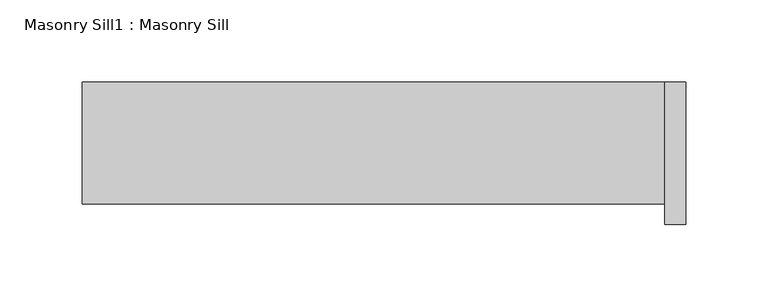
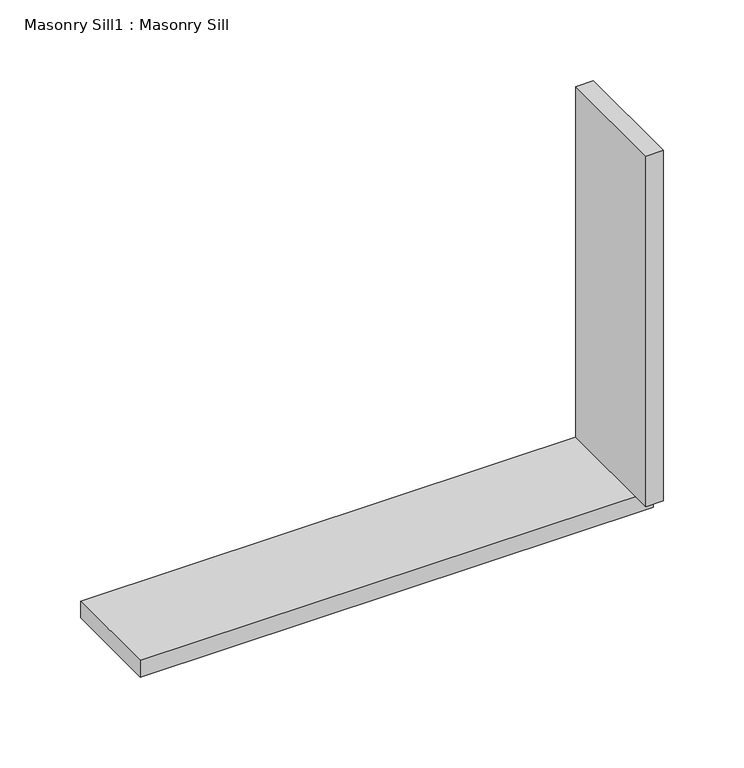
"""IFC4 building model written with IfcOpenShell, lengths in millimetres: proxy geometry, Masonry Sill1 : Masonry Sill."""

import ifcopenshell
import ifcopenshell.guid

model = None  # the IFC model being written
_history = None  # IfcOwnerHistory: only IFC2X3 demands one
_inside = {}  # id of a spatial element -> (the spatial element, [elements in it])
_under = {}  # id of a project, library or spatial element -> (it, [spatial elements below it])
_declared = {}  # id of a project -> (the project, [libraries it declares])
_typed = {}  # id of a type object -> (the type object, [elements of that type])
_made_of = {}  # id of a material, layer set ... -> (it, [elements and type objects made of it])


def new_model(schema):
    """Start an empty IFC model of exactly this schema.

    Asked for "IFC4X3", IfcOpenShell would pick the latest addendum, in which some entities
    have other attributes; the version numbers below select the first issue.
    IFC2X3 requires an IfcOwnerHistory on every rooted entity: one is made here for all.
    """
    global model, _history
    if schema == "IFC4X3":
        model = ifcopenshell.file(schema_version=(4, 3, 0, 0))
    else:
        model = ifcopenshell.file(schema=schema)
    _inside.clear()
    _under.clear()
    _declared.clear()
    _typed.clear()
    _made_of.clear()
    _history = None
    if model.schema == "IFC2X3":
        org = make("IfcOrganization", Name="unknown")
        user = make(
            "IfcPersonAndOrganization",
            ThePerson=make("IfcPerson", FamilyName="unknown"),
            TheOrganization=org,
        )
        app = make(
            "IfcApplication",
            ApplicationDeveloper=org,
            Version="unknown",
            ApplicationFullName="unknown",
            ApplicationIdentifier="unknown",
        )
        _history = make(
            "IfcOwnerHistory",
            OwningUser=user,
            OwningApplication=app,
            ChangeAction="ADDED",
            CreationDate=0,
        )
    return model


def make(cls, **values):
    """One entity of the class cls with the attributes given. An attribute that is None is left unset."""
    return model.create_entity(
        cls, **{name: value for name, value in values.items() if value is not None}
    )


def rooted(cls, **values):
    """An entity with a GlobalId (a new one), such as an element, a storey or a relation."""
    return make(cls, GlobalId=ifcopenshell.guid.new(), OwnerHistory=_history, **values)


def si_unit(unit_type, name, prefix=None):
    """IfcSIUnit, for example si_unit("LENGTHUNIT", "METRE", prefix="MILLI")."""
    return make("IfcSIUnit", UnitType=unit_type, Prefix=prefix, Name=name)


def assignment(units):
    """IfcUnitAssignment: the units of a project."""
    return None if units is None else make("IfcUnitAssignment", Units=units)


def point(xyz):
    """IfcCartesianPoint."""
    return None if xyz is None else make("IfcCartesianPoint", Coordinates=xyz)


def direction(xyz):
    """IfcDirection."""
    return None if xyz is None else make("IfcDirection", DirectionRatios=xyz)


def frame(location, z_axis=None, x_axis=None):
    """IfcAxis2Placement3D, a coordinate frame: its origin and axes. An axis left out is left unset."""
    return make(
        "IfcAxis2Placement3D",
        Location=point(location),
        Axis=direction(z_axis),
        RefDirection=direction(x_axis),
    )


def origin():
    """The frame at (0, 0, 0) with its axes left unset."""
    return frame((0.0, 0.0, 0.0))


def place(relative_to, where):
    """IfcLocalPlacement: puts the frame where relative to a parent placement (None: the world)."""
    return make(
        "IfcLocalPlacement", PlacementRelTo=relative_to, RelativePlacement=where
    )


def context(
    kind, dimensions, precision=None, world=None, true_north=None, identifier=None
):
    """IfcGeometricRepresentationContext, for example the 3D "Model" context."""
    return make(
        "IfcGeometricRepresentationContext",
        ContextIdentifier=identifier,
        ContextType=kind,
        CoordinateSpaceDimension=dimensions,
        Precision=precision,
        WorldCoordinateSystem=world,
        TrueNorth=true_north,
    )


def project(units=None, contexts=None):
    """IfcProject with its units and contexts."""
    return rooted(
        "IfcProject",
        Name="project",
        RepresentationContexts=contexts,
        UnitsInContext=assignment(units),
    )


def spatial(cls, under=None, at=None, **own):
    """A site, building, storey or space (cls), placed at a placement, below another one or the project."""
    s = rooted(cls, ObjectPlacement=at, **own)
    if under is not None:
        _under.setdefault(under.id(), (under, []))[1].append(s)
    return s


def polyline(points):
    """IfcPolyline through the points."""
    return make("IfcPolyline", Points=[point(p) for p in points])


def outline(outer, holes=None, kind="AREA"):
    """IfcArbitraryClosedProfileDef: a profile drawn as a closed curve; with holes, ...WithVoids."""
    if holes is None:
        return make("IfcArbitraryClosedProfileDef", ProfileType=kind, OuterCurve=outer)
    return make(
        "IfcArbitraryProfileDefWithVoids",
        ProfileType=kind,
        OuterCurve=outer,
        InnerCurves=holes,
    )


def extrude(swept, where, along, depth):
    """IfcExtrudedAreaSolid: the profile swept, set in the frame where, extruded along a direction by depth."""
    return make(
        "IfcExtrudedAreaSolid",
        SweptArea=swept,
        Position=where,
        ExtrudedDirection=direction(along),
        Depth=depth,
    )


def shape(context_of_items, identifier, shape_type, items):
    """IfcShapeRepresentation: the items that make up one representation, for example the "Body"."""
    return make(
        "IfcShapeRepresentation",
        ContextOfItems=context_of_items,
        RepresentationIdentifier=identifier,
        RepresentationType=shape_type,
        Items=items,
    )


def source(mapping_origin, context_of_items, identifier, shape_type, items):
    """IfcRepresentationMap: a shape defined once, which mapped items show again and again."""
    return make(
        "IfcRepresentationMap",
        MappingOrigin=mapping_origin,
        MappedRepresentation=shape(context_of_items, identifier, shape_type, items),
    )


def transform(
    local_origin,
    x_axis=None,
    y_axis=None,
    z_axis=None,
    scale=None,
    scale2=None,
    scale3=None,
    uniform=True,
):
    """IfcCartesianTransformationOperator3D, or its non-uniform kind. x_axis, y_axis, z_axis: its Axis1, 2, 3."""
    if uniform:
        return make(
            "IfcCartesianTransformationOperator3D",
            Axis1=direction(x_axis),
            Axis2=direction(y_axis),
            LocalOrigin=point(local_origin),
            Scale=scale,
            Axis3=direction(z_axis),
        )
    return make(
        "IfcCartesianTransformationOperator3DnonUniform",
        Axis1=direction(x_axis),
        Axis2=direction(y_axis),
        LocalOrigin=point(local_origin),
        Scale=scale,
        Axis3=direction(z_axis),
        Scale2=scale2,
        Scale3=scale3,
    )


def mapped(mapping_source, mapping_target):
    """IfcMappedItem: shows the shape of a source again, moved by a transform."""
    return make(
        "IfcMappedItem", MappingSource=mapping_source, MappingTarget=mapping_target
    )


def made_of(thing, what):
    """Note that an element or type object is made of a material, layer set ...; save() writes the relation."""
    if what is not None:
        _made_of.setdefault(what.id(), (what, []))[1].append(thing)
    return thing


def element(
    cls,
    number,
    at=None,
    inside=None,
    cuts=None,
    type_object=None,
    material=None,
    context=None,
    identifier="Body",
    shape_type=None,
    held_by="IfcProductDefinitionShape",
    body=None,
    shapes=None,
    **own,
):
    """One element of the class cls, such as IfcWall. Its Tag is "e" and its number.

    at: its placement. inside: the storey or other place that contains it. cuts: it is an
    opening in that element (IfcRelVoidsElement). A single representation is given by context,
    identifier, shape_type and body (its items); several are given by shapes. held_by: the class
    of the entity that holds the representations. save() writes the other relations.
    """
    e = rooted(cls, Tag="e%d" % number, ObjectPlacement=at, **own)
    if body is not None:
        shapes = [shape(context, identifier, shape_type, body)]
    if shapes is not None:
        e.Representation = make(held_by, Representations=shapes)
    if inside is not None:
        _inside.setdefault(inside.id(), (inside, []))[1].append(e)
    if cuts is not None:
        rooted(
            "IfcRelVoidsElement", RelatingBuildingElement=cuts, RelatedOpeningElement=e
        )
    if type_object is not None:
        _typed.setdefault(type_object.id(), (type_object, []))[1].append(e)
    return made_of(e, material)


def aggregate(whole, parts):
    """IfcRelAggregates: a whole, such as a stair, and the parts it consists of."""
    return rooted("IfcRelAggregates", RelatingObject=whole, RelatedObjects=parts)


def save(model, path):
    """Write the relations noted so far, then the file.

    IfcRelAggregates (storeys below a building ...), IfcRelContainedInSpatialStructure (elements
    in a storey), IfcRelDefinesByType, IfcRelAssociatesMaterial and IfcRelDeclares: one each for
    every whole, place, type object, material and project.
    """
    for whole, parts in _under.values():
        aggregate(whole, parts)
    for where, things in _inside.values():
        rooted(
            "IfcRelContainedInSpatialStructure",
            RelatedElements=things,
            RelatingStructure=where,
        )
    for kind, things in _typed.values():
        rooted("IfcRelDefinesByType", RelatedObjects=things, RelatingType=kind)
    for what, things in _made_of.values():
        rooted("IfcRelAssociatesMaterial", RelatedObjects=things, RelatingMaterial=what)
    for by, libraries in _declared.values():
        rooted("IfcRelDeclares", RelatingContext=by, RelatedDefinitions=libraries)
    model.write(path)


def masonry_sill1_masonry_sill_5b392f48(model_context):
    return source(origin(), model_context, "Body", "SweptSolid", [
        extrude(outline(polyline([(26855.8851773, 643.5066297), (26843.1851773, 643.5066297), (26843.1851773, 730.1774531), (26855.8851773, 730.1774531), (26855.8851773, 643.5066297)])), frame((0.0, 0.0, 471.4875), z_axis=(0.0, 0.0, 1.0), x_axis=(1.0, 0.0, 0.0)), (0.0, 0.0, 1.0), 265.1125),
        extrude(outline(polyline([(26489.1726773, 656.2066297), (26489.1726773, 730.1774531), (26855.8851773, 730.1774531), (26855.8851773, 656.2066297), (26489.1726773, 656.2066297)])), frame((0.0, 0.0, 458.7875), z_axis=(0.0, 0.0, 1.0), x_axis=(1.0, 0.0, 0.0)), (0.0, 0.0, 1.0), 12.7),
    ])


if __name__ == "__main__":
    model = new_model("IFC4")
    model_context = context("Model", 3, world=origin())
    ifc_project = project(units=[si_unit("LENGTHUNIT", "METRE", prefix="MILLI")], contexts=[model_context])
    site = spatial("IfcSite", under=ifc_project)
    building = spatial("IfcBuilding", under=site)
    placement = place(None, origin())
    masonry_sill1_masonry_sill_shape = masonry_sill1_masonry_sill_5b392f48(model_context)
    element("IfcBuildingElementProxy", 1, Name="Masonry Sill1 : Masonry Sill", ObjectType="Masonry Sill1 : Masonry Sill", at=placement, inside=building, context=model_context, shape_type="MappedRepresentation", body=[
        mapped(masonry_sill1_masonry_sill_shape, transform((0.0, 0.0, 0.0), x_axis=(1.0, 0.0, 0.0), y_axis=(0.0, 1.0, 0.0), z_axis=(0.0, 0.0, 1.0))),
    ])
    save(model, "model.ifc")
